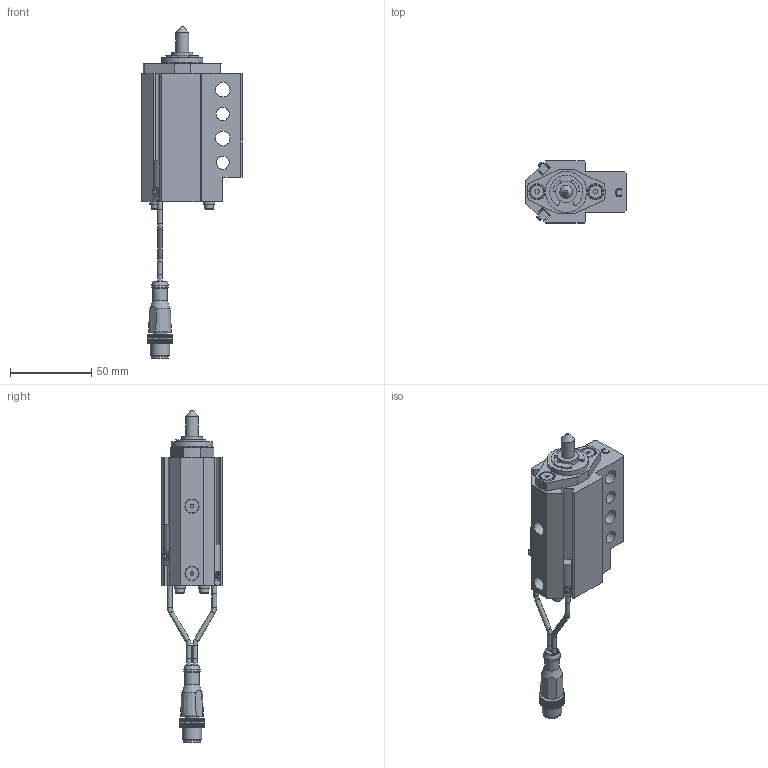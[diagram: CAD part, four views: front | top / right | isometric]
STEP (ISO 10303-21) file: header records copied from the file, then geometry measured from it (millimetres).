
FILE_DESCRIPTION(/* description */ ('NAAMS FLOATING MICRO PIN'),/* implementation_level */ '2;1');
FILE_NAME(/* name */ 'C:\Vault Workspace\CAD\Welker\Shot Pin\NMP\NMP080012CANL3.stp',/* time_stamp */ '2021-01-27T08:33:55-05:00',/* author */ ('WELKER'),/* organization */ (''),/* preprocessor_version */ 'ST-DEVELOPER v18.1',/* originating_system */ 'Autodesk Inventor 2020',/* authorisation */ '');
FILE_SCHEMA (('AUTOMOTIVE_DESIGN { 1 0 10303 214 3 1 1 }'));
Length unit declared in the file: millimetre
Products named in the file (16): NMPL01; NMP L3 SWITCH; L3 Connector; L3 Sensor 1; L3 Sensor 2; L3 Sensor cable; L3 Sensor cable 2; M3X0.5-8 SHCS; NL3; NMPE06; NMPE03; NMPE05-DIA-LENGTH; 985432A218; NMPE01C-PORT; RMPE02; M5X5 SHOULDER
Assembly tree (22 placements, depth 3):
  NMPL01
    NMP L3 SWITCH
      L3 Connector
      L3 Sensor 1
      L3 Sensor 2
      L3 Sensor cable
      L3 Sensor cable 2
    M3X0.5-8 SHCS  x4
    NL3  x4
    NMPE06
    NMPE03
    NMPE05-DIA-LENGTH
    985432A218
    NMPE01C-PORT
    RMPE02
    M5X5 SHOULDER  x2
Bounding box: 62 x 38.1 x 204.73 mm (x, y, z)
Volume: 110069.8 mm3; surface area: 45199.9 mm2
Topology: 21 solids, 21 shells, 752 faces, 2040 edges, 1364 vertices
Faces by surface type: plane 545, cylinder 144, cone 31, bspline 18, torus 11, sphere 3
Full cylindrical faces by diameter (mm): 2 x2, 2.459 x4, 2.9 x10, 3 x5, 3.242 x2, 3.4 x4, 4 x2, 5 x6, 5.5 x4, 7 x4, 8 x3, 8.3 x2, 9 x5, 10 x3, 10.4 x1, 10.5 x1, 12 x1, 13 x3, 16 x2, 19.05 x3, 21 x1, 22.5 x1, 23.672 x1, 24 x1, 25.4 x1, 25.5 x1, 26.5 x1, 28.677 x1, 29.21 x1, 31.75 x2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
Entity records: 23061 total; most frequent: CARTESIAN_POINT 4367, ORIENTED_EDGE 3778, DIRECTION 3695, EDGE_CURVE 1889, LINE 1377, VECTOR 1377, VERTEX_POINT 1269, AXIS2_PLACEMENT_3D 1159
